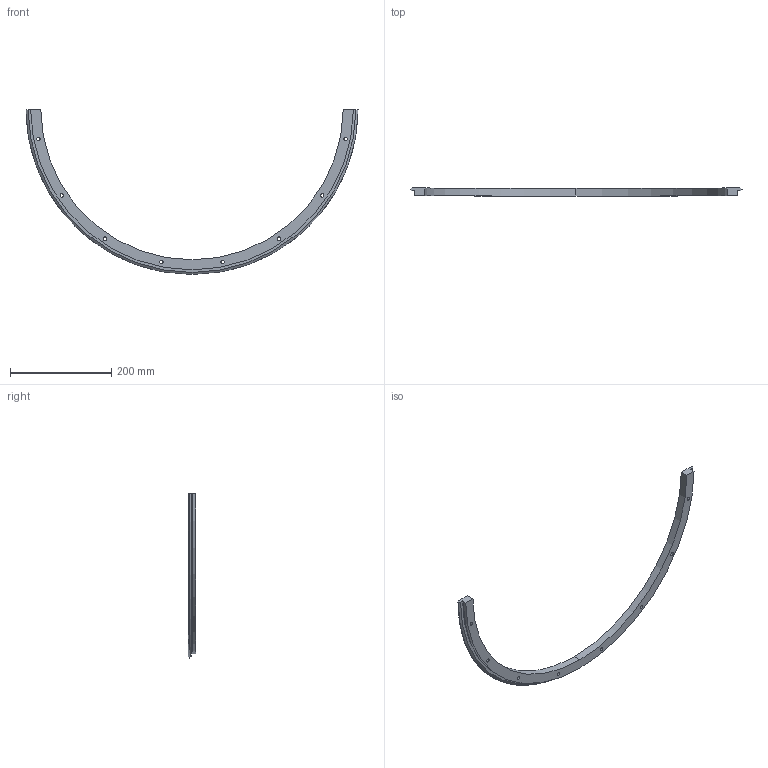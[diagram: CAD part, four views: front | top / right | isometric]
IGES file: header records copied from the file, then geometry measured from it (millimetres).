
Start section: 3D InterOp IGES (v. 2020 1.0.1), Spatial Corp. Copyright (c) 1999-2017.
Global section: file name: rem_655_r180.igs; native system: Spatial Corp.; preprocessor: 3D InterOp ACIS/IGES; author: TraceParts; organization: TraceParts S.A.; date: 20220624.102044; units: millimetre
Bounding box: 655.71 x 15.5 x 325.86 mm (x, y, z)
Surface area: 87776.4 mm2 (no closed solid volume)
Topology: 0 solids, 0 shells, 60 faces, 294 edges, 294 vertices
Faces by surface type: revolution 46, extrusion 14
